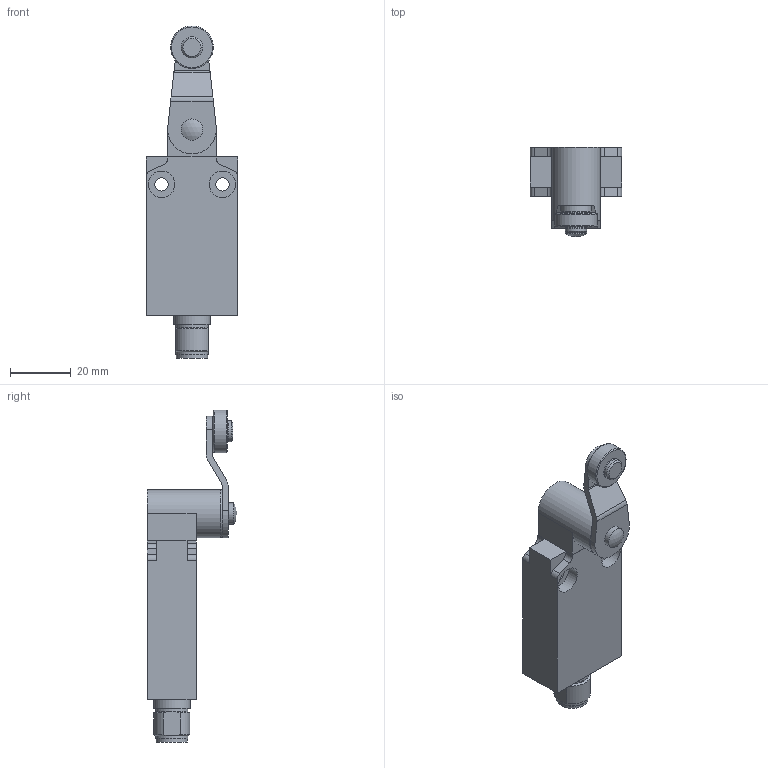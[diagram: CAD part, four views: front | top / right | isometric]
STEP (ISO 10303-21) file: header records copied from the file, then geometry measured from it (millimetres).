
FILE_DESCRIPTION(/* description */ (''),/* implementation_level */ '2;1');
FILE_NAME(/* name */ 'I49AH_bottom M12.stp',/* time_stamp */ '2024-11-19T14:58:37+01:00',/* author */ ('servizio.tecnico'),/* organization */ (''),/* preprocessor_version */ 'ST-DEVELOPER v19.2',/* originating_system */ 'Autodesk Inventor 2024',/* authorisation */ '');
FILE_SCHEMA (('AUTOMOTIVE_DESIGN { 1 0 10303 214 3 1 1 }'));
Length unit declared in the file: millimetre
Products named in the file (4): EP1G41; Product; Product_1; fu 4120
Assembly tree (3 placements, depth 2):
  EP1G41
    Product
    Product_1
    fu 4120
Bounding box: 30 x 29.28 x 109 mm (x, y, z)
Volume: 33078.9 mm3; surface area: 11871.2 mm2
Topology: 6 solids, 6 shells, 119 faces, 262 edges, 171 vertices
Faces by surface type: plane 61, cylinder 45, cone 9, torus 3, sphere 1
Full cylindrical faces by diameter (mm): 4.4 x2, 5 x3, 7 x4, 8.7 x4, 10.3 x2, 10.6 x4, 12 x2, 14 x1, 15.8 x1
Entity records: 3519 total; most frequent: DIRECTION 606, CARTESIAN_POINT 591, ORIENTED_EDGE 524, EDGE_CURVE 262, AXIS2_PLACEMENT_3D 234, VERTEX_POINT 171, EDGE_LOOP 139, LINE 138
